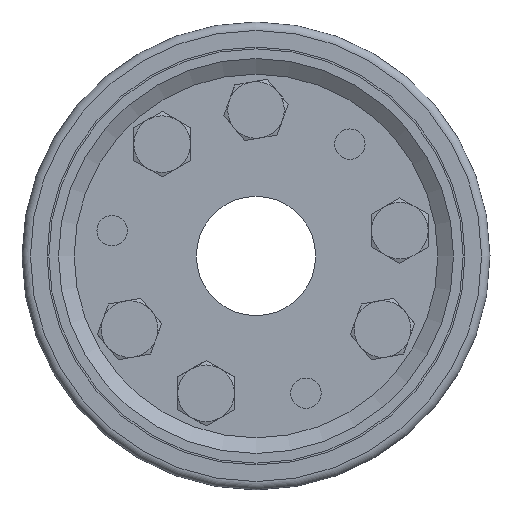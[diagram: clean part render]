
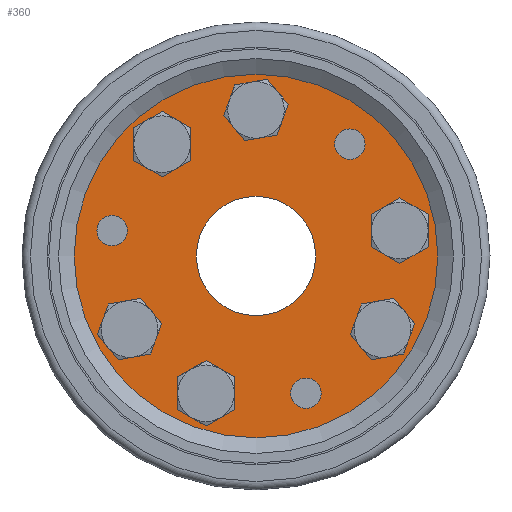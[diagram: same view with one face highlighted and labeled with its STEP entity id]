
A CAD part, left-side view. The second image highlights one B-rep face of the part: STEP entity #360.
In plain terms, the highlighted planar face has unit normal (-1, 0, 0).
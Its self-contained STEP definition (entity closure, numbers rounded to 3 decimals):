
#360 = ADVANCED_FACE( '', ( #1038, #1039, #1040, #1041, #1042, #1043, #1044, #1045, #1046, #1047, #1048 ), #1049, .T. );
#1038 = FACE_BOUND( '', #2217, .T. );
#1039 = FACE_BOUND( '', #2218, .T. );
#1040 = FACE_BOUND( '', #2219, .T. );
#1041 = FACE_OUTER_BOUND( '', #2220, .T. );
#1042 = FACE_BOUND( '', #2221, .T. );
#1043 = FACE_BOUND( '', #2222, .T. );
#1044 = FACE_BOUND( '', #2223, .T. );
#1045 = FACE_BOUND( '', #2224, .T. );
#1046 = FACE_BOUND( '', #2225, .T. );
#1047 = FACE_BOUND( '', #2226, .T. );
#1048 = FACE_BOUND( '', #2227, .T. );
#1049 = PLANE( '', #2228 );
#2217 = EDGE_LOOP( '', ( #3414 ) );
#2218 = EDGE_LOOP( '', ( #3415 ) );
#2219 = EDGE_LOOP( '', ( #3416 ) );
#2220 = EDGE_LOOP( '', ( #3417 ) );
#2221 = EDGE_LOOP( '', ( #3418 ) );
#2222 = EDGE_LOOP( '', ( #3419 ) );
#2223 = EDGE_LOOP( '', ( #3420 ) );
#2224 = EDGE_LOOP( '', ( #3421 ) );
#2225 = EDGE_LOOP( '', ( #3422 ) );
#2226 = EDGE_LOOP( '', ( #3423 ) );
#2227 = EDGE_LOOP( '', ( #3424 ) );
#2228 = AXIS2_PLACEMENT_3D( '', #3425, #3426, #3427 );
#3414 = ORIENTED_EDGE( '', *, *, #5890, .T. );
#3415 = ORIENTED_EDGE( '', *, *, #5891, .T. );
#3416 = ORIENTED_EDGE( '', *, *, #5892, .T. );
#3417 = ORIENTED_EDGE( '', *, *, #5893, .T. );
#3418 = ORIENTED_EDGE( '', *, *, #5894, .F. );
#3419 = ORIENTED_EDGE( '', *, *, #5895, .F. );
#3420 = ORIENTED_EDGE( '', *, *, #5896, .F. );
#3421 = ORIENTED_EDGE( '', *, *, #5897, .F. );
#3422 = ORIENTED_EDGE( '', *, *, #5898, .F. );
#3423 = ORIENTED_EDGE( '', *, *, #5899, .F. );
#3424 = ORIENTED_EDGE( '', *, *, #5900, .T. );
#3425 = CARTESIAN_POINT( '', ( -67., 12.213, 14.555 ) );
#3426 = DIRECTION( '', ( -1., 0., 0. ) );
#3427 = DIRECTION( '', ( 0., 0.643, 0.766 ) );
#5890 = EDGE_CURVE( '', #6831, #6831, #6832, .T. );
#5891 = EDGE_CURVE( '', #6833, #6833, #6834, .T. );
#5892 = EDGE_CURVE( '', #6835, #6835, #6836, .T. );
#5893 = EDGE_CURVE( '', #6837, #6837, #6838, .T. );
#5894 = EDGE_CURVE( '', #6839, #6839, #6840, .T. );
#5895 = EDGE_CURVE( '', #6841, #6841, #6842, .T. );
#5896 = EDGE_CURVE( '', #6843, #6843, #6844, .T. );
#5897 = EDGE_CURVE( '', #6845, #6845, #6846, .T. );
#5898 = EDGE_CURVE( '', #6847, #6847, #6848, .T. );
#5899 = EDGE_CURVE( '', #6849, #6849, #6850, .T. );
#5900 = EDGE_CURVE( '', #6851, #6851, #6852, .F. );
#6831 = VERTEX_POINT( '', #8282 );
#6832 = CIRCLE( '', #8283, 5.1 );
#6833 = VERTEX_POINT( '', #8284 );
#6834 = CIRCLE( '', #8285, 5.1 );
#6835 = VERTEX_POINT( '', #8286 );
#6836 = CIRCLE( '', #8287, 5.1 );
#6837 = VERTEX_POINT( '', #8288 );
#6838 = CIRCLE( '', #8289, 61. );
#6839 = VERTEX_POINT( '', #8290 );
#6840 = CIRCLE( '', #8291, 8.6 );
#6841 = VERTEX_POINT( '', #8292 );
#6842 = CIRCLE( '', #8293, 8.6 );
#6843 = VERTEX_POINT( '', #8294 );
#6844 = CIRCLE( '', #8295, 8.6 );
#6845 = VERTEX_POINT( '', #8296 );
#6846 = CIRCLE( '', #8297, 8.6 );
#6847 = VERTEX_POINT( '', #8298 );
#6848 = CIRCLE( '', #8299, 8.6 );
#6849 = VERTEX_POINT( '', #8300 );
#6850 = CIRCLE( '', #8301, 8.6 );
#6851 = VERTEX_POINT( '', #8302 );
#6852 = CIRCLE( '', #8303, 20. );
#8282 = CARTESIAN_POINT( '', ( -67., -13.481, -42.138 ) );
#8283 = AXIS2_PLACEMENT_3D( '', #10743, #10744, #10745 );
#8284 = CARTESIAN_POINT( '', ( -67., -28.218, 41.443 ) );
#8285 = AXIS2_PLACEMENT_3D( '', #10746, #10747, #10748 );
#8286 = CARTESIAN_POINT( '', ( -67., 51.534, 12.416 ) );
#8287 = AXIS2_PLACEMENT_3D( '', #10749, #10750, #10751 );
#8288 = CARTESIAN_POINT( '', ( -67., 39.21, 46.729 ) );
#8289 = AXIS2_PLACEMENT_3D( '', #10752, #10753, #10754 );
#8290 = CARTESIAN_POINT( '', ( -67., -42.435, -15.9 ) );
#8291 = AXIS2_PLACEMENT_3D( '', #10755, #10756, #10757 );
#8292 = CARTESIAN_POINT( '', ( -67., 0., 57.6 ) );
#8293 = AXIS2_PLACEMENT_3D( '', #10758, #10759, #10760 );
#8294 = CARTESIAN_POINT( '', ( -67., 42.435, -15.9 ) );
#8295 = AXIS2_PLACEMENT_3D( '', #10761, #10762, #10763 );
#8296 = CARTESIAN_POINT( '', ( -67., -48.256, 17.109 ) );
#8297 = AXIS2_PLACEMENT_3D( '', #10764, #10765, #10766 );
#8298 = CARTESIAN_POINT( '', ( -67., 16.759, -37.445 ) );
#8299 = AXIS2_PLACEMENT_3D( '', #10767, #10768, #10769 );
#8300 = CARTESIAN_POINT( '', ( -67., 31.497, 46.136 ) );
#8301 = AXIS2_PLACEMENT_3D( '', #10770, #10771, #10772 );
#8302 = CARTESIAN_POINT( '', ( -67., 0., 20. ) );
#8303 = AXIS2_PLACEMENT_3D( '', #10773, #10774, #10775 );
#10743 = CARTESIAN_POINT( '', ( -67., -16.759, -46.045 ) );
#10744 = DIRECTION( '', ( 1., 0., 0. ) );
#10745 = DIRECTION( '', ( 0., 0.643, 0.766 ) );
#10746 = CARTESIAN_POINT( '', ( -67., -31.497, 37.536 ) );
#10747 = DIRECTION( '', ( 1., 0., 0. ) );
#10748 = DIRECTION( '', ( 0., 0.643, 0.766 ) );
#10749 = CARTESIAN_POINT( '', ( -67., 48.256, 8.509 ) );
#10750 = DIRECTION( '', ( 1., 0., 0. ) );
#10751 = DIRECTION( '', ( 0., 0.643, 0.766 ) );
#10752 = CARTESIAN_POINT( '', ( -67., 0., 0. ) );
#10753 = DIRECTION( '', ( -1., 0., 0. ) );
#10754 = DIRECTION( '', ( 0., 0.643, 0.766 ) );
#10755 = CARTESIAN_POINT( '', ( -67., -42.435, -24.5 ) );
#10756 = DIRECTION( '', ( -1., 0., 0. ) );
#10757 = DIRECTION( '', ( 0., 0., 1. ) );
#10758 = CARTESIAN_POINT( '', ( -67., 0., 49. ) );
#10759 = DIRECTION( '', ( -1., 0., 0. ) );
#10760 = DIRECTION( '', ( 0., 0., 1. ) );
#10761 = CARTESIAN_POINT( '', ( -67., 42.435, -24.5 ) );
#10762 = DIRECTION( '', ( -1., 0., 0. ) );
#10763 = DIRECTION( '', ( 0., 0., 1. ) );
#10764 = CARTESIAN_POINT( '', ( -67., -48.256, 8.509 ) );
#10765 = DIRECTION( '', ( -1., 0., 0. ) );
#10766 = DIRECTION( '', ( 0., 0., 1. ) );
#10767 = CARTESIAN_POINT( '', ( -67., 16.759, -46.045 ) );
#10768 = DIRECTION( '', ( -1., 0., 0. ) );
#10769 = DIRECTION( '', ( 0., 0., 1. ) );
#10770 = CARTESIAN_POINT( '', ( -67., 31.497, 37.536 ) );
#10771 = DIRECTION( '', ( -1., 0., 0. ) );
#10772 = DIRECTION( '', ( 0., 0., 1. ) );
#10773 = CARTESIAN_POINT( '', ( -67., 0., 0. ) );
#10774 = DIRECTION( '', ( -1., 0., 0. ) );
#10775 = DIRECTION( '', ( 0., 0., 1. ) );
